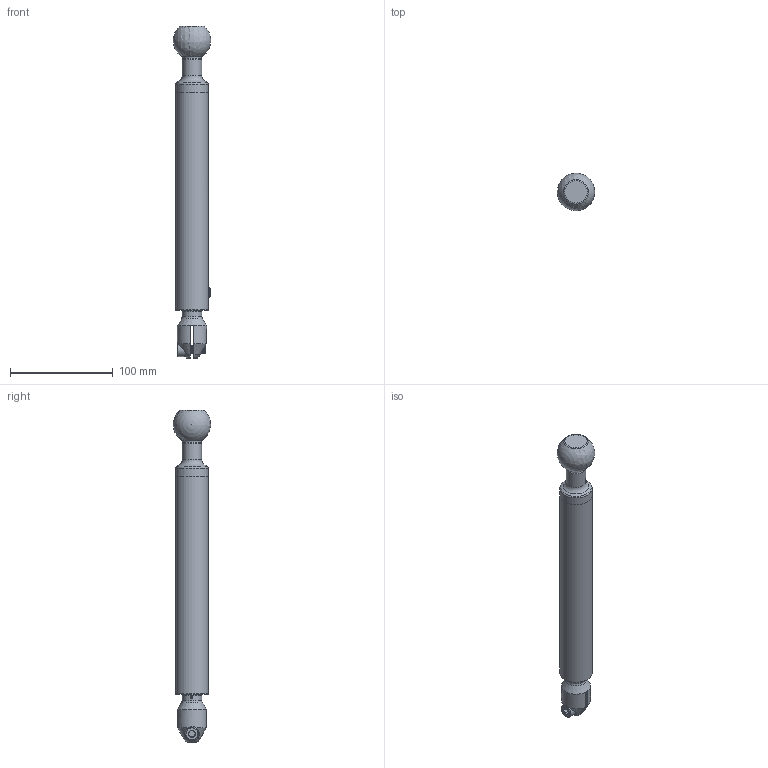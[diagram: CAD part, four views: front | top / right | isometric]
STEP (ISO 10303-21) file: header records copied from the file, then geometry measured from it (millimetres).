
FILE_DESCRIPTION(/* description */ (''),/* implementation_level */ '2;1');
FILE_NAME(/* name */ 'C:\Users\owner\Desktop\HDPL-POSTS_3D_stp\HDPL-TPOST6IN-BK.stp',/* time_stamp */ '2017-10-02T09:27:27-04:00',/* author */ ('owner'),/* organization */ (''),/* preprocessor_version */ 'ST-DEVELOPER v16.5',/* originating_system */ 'Autodesk Inventor 2017',/* authorisation */ '');
FILE_SCHEMA (('CONFIG_CONTROL_DESIGN'));
Length unit declared in the file: inch
Products named in the file (7): PL-HDTPOST6IN; 60068; 60071; 60067; #92775; 60074; 60077
Assembly tree (6 placements, depth 2):
  PL-HDTPOST6IN
    60068
    60071
    60067
    #92775
    60074
    60077
Bounding box: 36.65 x 36.43 x 323.91 mm (x, y, z)
Volume: 221805.9 mm3; surface area: 66113 mm2
Topology: 6 solids, 6 shells, 986 faces, 2646 edges, 1744 vertices
Faces by surface type: bspline 417, plane 402, cylinder 114, cone 29, torus 21, sphere 3
Full cylindrical faces by diameter (mm): 6.655 x1, 7 x1, 8.382 x1, 8.731 x1, 9.131 x1, 10.033 x1, 10.693 x1, 10.744 x1, 13 x1, 18.923 x1, 18.947 x1, 19.05 x1, 19.446 x1, 19.482 x1, 22.123 x1, 22.187 x1, 22.225 x2, 28.341 x1, 31.75 x2
Entity records: 44528 total; most frequent: CARTESIAN_POINT 22741, ORIENTED_EDGE 5048, DIRECTION 3299, EDGE_CURVE 2524, VERTEX_POINT 1696, LINE 1191, VECTOR 1191, EDGE_LOOP 1134
